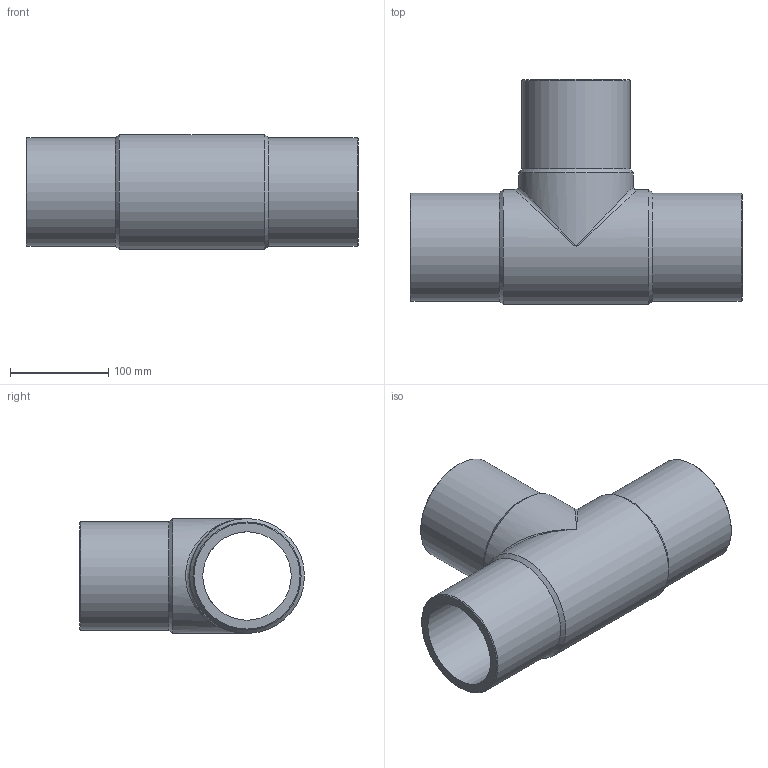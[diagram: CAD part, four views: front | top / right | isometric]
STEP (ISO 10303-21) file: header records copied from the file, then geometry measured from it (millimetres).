
FILE_DESCRIPTION(/* description */ ('Unknown'),/* implementation_level */ '2;1');
FILE_NAME(/* name */ 'TP110C',/* time_stamp */ '2021-08-12T16:13:54+02:00',/* author */ ('Unknown'),/* organization */ ('Unknown'),/* preprocessor_version */ 'ST-DEVELOPER v16.7',/* originating_system */ 'Solid Edge',/* authorisation */ 'Unknown');
FILE_SCHEMA (('AUTOMOTIVE_DESIGN {1 0 10303 214 3 1 1}'));
Length unit declared in the file: millimetre
Products named in the file (1): TP110C
Bounding box: 338 x 229 x 117 mm (x, y, z)
Volume: 1592959.4 mm3; surface area: 290946.4 mm2
Topology: 1 solids, 1 shells, 18 faces, 44 edges, 23 vertices
Faces by surface type: cylinder 7, cone 6, plane 3, bspline 2
Full cylindrical faces by diameter (mm): 90 x2, 110 x3, 117 x2
Entity records: 516 total; most frequent: CARTESIAN_POINT 159, DIRECTION 76, ORIENTED_EDGE 42, AXIS2_PLACEMENT_3D 38, EDGE_LOOP 36, FACE_BOUND 36, EDGE_CURVE 21, VERTEX_POINT 19
